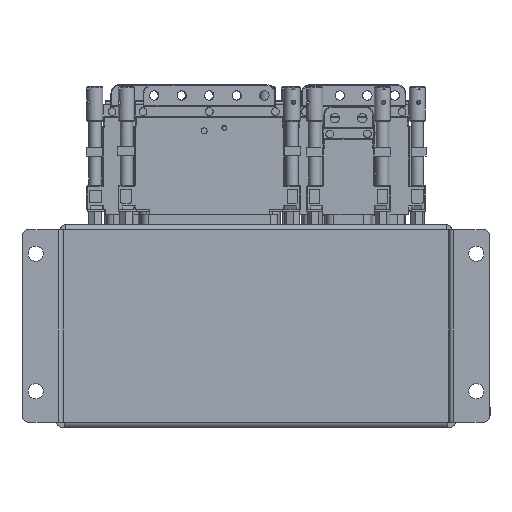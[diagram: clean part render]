
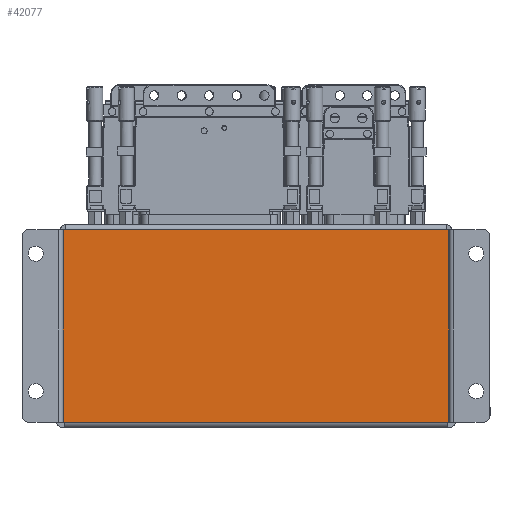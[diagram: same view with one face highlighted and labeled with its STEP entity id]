
A CAD part, front view. The second image highlights one B-rep face of the part: STEP entity #42077.
In plain terms, the highlighted planar face has unit normal (0, -1, 0).
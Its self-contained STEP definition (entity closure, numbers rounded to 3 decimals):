
#101 = LINE ( 'NONE', #69075, #1113 ) ;
#279 = LINE ( 'NONE', #22485, #31154 ) ;
#1113 = VECTOR ( 'NONE', #68627, 1000. ) ;
#3504 = VECTOR ( 'NONE', #48161, 1000. ) ;
#5035 = DIRECTION ( 'NONE',  ( 0., -1., 0. ) ) ;
#6442 = CARTESIAN_POINT ( 'NONE',  ( -103.015, -11.014, 33.001 ) ) ;
#8027 = EDGE_CURVE ( 'NONE', #9265, #8549, #101, .T. ) ;
#8549 = VERTEX_POINT ( 'NONE', #24338 ) ;
#9265 = VERTEX_POINT ( 'NONE', #29423 ) ;
#9313 = LINE ( 'NONE', #72773, #3504 ) ;
#21398 = CARTESIAN_POINT ( 'NONE',  ( -103.015, -11.014, -38.17 ) ) ;
#21708 = EDGE_CURVE ( 'NONE', #8549, #28181, #53121, .T. ) ;
#22485 = CARTESIAN_POINT ( 'NONE',  ( -103.015, -11.014, -38.678 ) ) ;
#23168 = ORIENTED_EDGE ( 'NONE', *, *, #47682, .T. ) ;
#24338 = CARTESIAN_POINT ( 'NONE',  ( 39.409, -11.014, 33.001 ) ) ;
#24527 = VERTEX_POINT ( 'NONE', #21398 ) ;
#28181 = VERTEX_POINT ( 'NONE', #6442 ) ;
#29423 = CARTESIAN_POINT ( 'NONE',  ( 39.409, -11.014, -38.17 ) ) ;
#31154 = VECTOR ( 'NONE', #78213, 1000. ) ;
#31386 = FACE_OUTER_BOUND ( 'NONE', #59707, .T. ) ;
#32528 = CARTESIAN_POINT ( 'NONE',  ( 38.86, -11.014, 33.001 ) ) ;
#34941 = ORIENTED_EDGE ( 'NONE', *, *, #21708, .T. ) ;
#39879 = ORIENTED_EDGE ( 'NONE', *, *, #8027, .T. ) ;
#42077 = ADVANCED_FACE ( 'NONE', ( #31386 ), #42100, .T. ) ;
#42100 = PLANE ( 'NONE',  #65589 ) ;
#47682 = EDGE_CURVE ( 'NONE', #24527, #9265, #9313, .T. ) ;
#48161 = DIRECTION ( 'NONE',  ( 1., 0., 0. ) ) ;
#48305 = DIRECTION ( 'NONE',  ( 1., 0., 0. ) ) ;
#53121 = LINE ( 'NONE', #32528, #53223 ) ;
#53223 = VECTOR ( 'NONE', #75826, 1000. ) ;
#59707 = EDGE_LOOP ( 'NONE', ( #78068, #23168, #39879, #34941 ) ) ;
#65589 = AXIS2_PLACEMENT_3D ( 'NONE', #72680, #5035, #48305 ) ;
#68627 = DIRECTION ( 'NONE',  ( 0., 0., 1. ) ) ;
#69075 = CARTESIAN_POINT ( 'NONE',  ( 39.409, -11.014, -38.678 ) ) ;
#69700 = EDGE_CURVE ( 'NONE', #28181, #24527, #279, .T. ) ;
#72680 = CARTESIAN_POINT ( 'NONE',  ( 38.86, -11.014, -38.678 ) ) ;
#72773 = CARTESIAN_POINT ( 'NONE',  ( 38.86, -11.014, -38.17 ) ) ;
#75826 = DIRECTION ( 'NONE',  ( -1., 0., 0. ) ) ;
#78068 = ORIENTED_EDGE ( 'NONE', *, *, #69700, .T. ) ;
#78213 = DIRECTION ( 'NONE',  ( 0., 0., -1. ) ) ;
